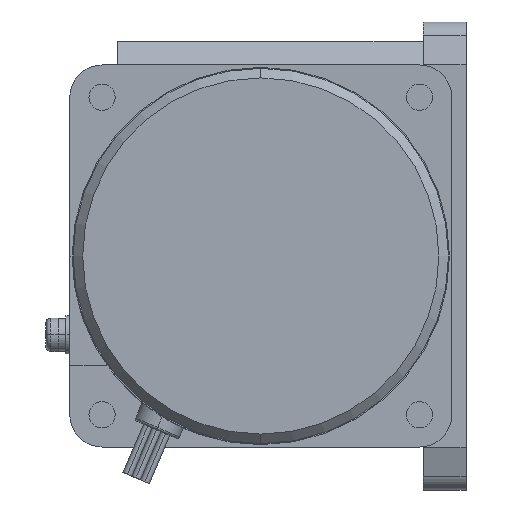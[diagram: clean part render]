
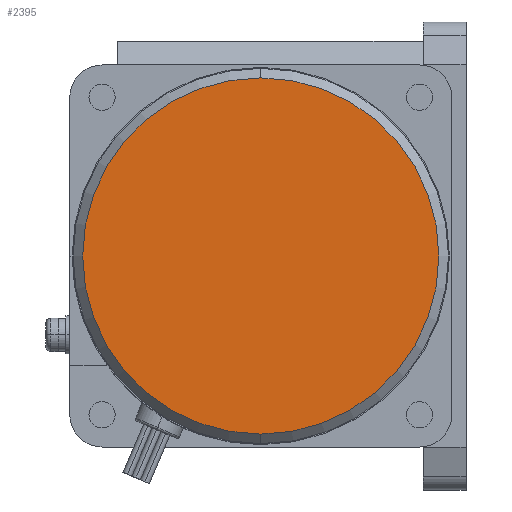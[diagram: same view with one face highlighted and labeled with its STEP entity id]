
A CAD part, left-side view. The second image highlights one B-rep face of the part: STEP entity #2395.
In plain terms, the highlighted planar face has unit normal (-1, 0, 0).
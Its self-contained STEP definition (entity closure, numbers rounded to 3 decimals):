
#2375=CARTESIAN_POINT('POINT529548',(-146.,43.,22.3));
#2376=VERTEX_POINT('VERTEX529548',#2375);
#2377=CARTESIAN_POINT('POINT529549',(-146.,43.,-52.3));
#2378=VERTEX_POINT('VERTEX529549',#2377);
#2379=CARTESIAN_POINT('POS868189',(-146.,43.,-15.));
#2380=DIRECTION('DIR1274526',(1.,0.,0.));
#2381=DIRECTION('DIR1274527',(0.,0.,1.));
#2382=AXIS2_PLACEMENT_3D('AXIS406338',#2379,#2380,#2381);
#2383=CIRCLE('ELLIPSE172322',#2382,37.3);
#2384=EDGE_CURVE('EDGE818970',#2376,#2378,#2383,.T.);
#2385=ORIENTED_EDGE('COEDGE1638493',*,*,#2384,.F.);
#2386=EDGE_CURVE('EDGE818971',#2378,#2376,#2383,.T.);
#2387=ORIENTED_EDGE('COEDGE1638494',*,*,#2386,.F.);
#2388=EDGE_LOOP('NONE',(#2385,#2387));
#2389=FACE_BOUND('LOOP1',#2388,.T.);
#2390=CARTESIAN_POINT('POS868190',(-146.,43.,
   3.65));
#2391=DIRECTION('DIR1274528',(-1.,0.,0.));
#2392=DIRECTION('DIR1274529',(0.,1.,0.));
#2393=AXIS2_PLACEMENT_3D('AXIS406339',#2390,#2391,#2392);
#2394=PLANE('PLANE157457',#2393);
#2395=ADVANCED_FACE('FACE324532',(#2389),#2394,.T.);
